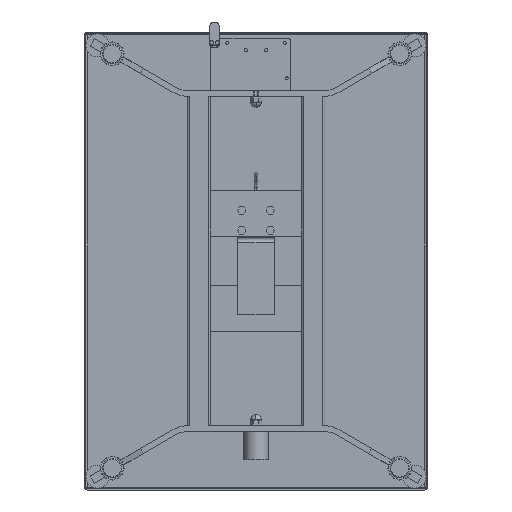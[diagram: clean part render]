
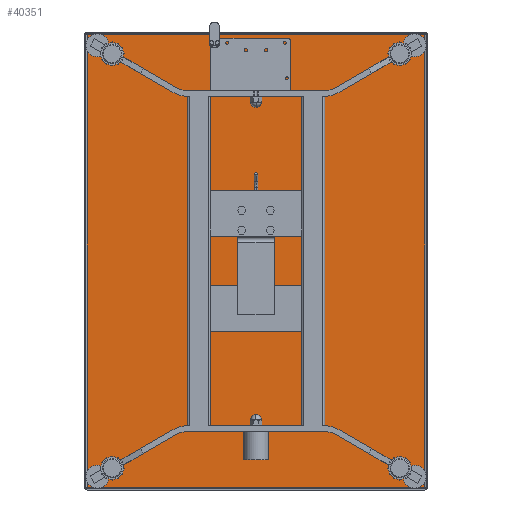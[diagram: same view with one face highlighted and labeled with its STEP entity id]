
A CAD part, front view. The second image highlights one B-rep face of the part: STEP entity #40351.
In plain terms, the highlighted planar face has unit normal (0, -1, 0).
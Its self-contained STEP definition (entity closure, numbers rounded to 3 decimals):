
#38860=DIRECTION('',(0.,0.,-1.));
#38861=VECTOR('',#38860,790.);
#38862=CARTESIAN_POINT('',(395.,95.9,395.));
#38863=LINE('',#38862,#38861);
#38964=CARTESIAN_POINT('',(395.,95.9,395.));
#38972=DIRECTION('',(1.,0.,0.));
#38973=VECTOR('',#38972,590.);
#38974=CARTESIAN_POINT('',(-195.,95.9,395.));
#38975=LINE('',#38974,#38973);
#39021=CARTESIAN_POINT('',(-195.,95.9,-395.));
#39029=DIRECTION('',(-1.,0.,0.));
#39030=VECTOR('',#39029,590.);
#39031=CARTESIAN_POINT('',(395.,95.9,-395.));
#39032=LINE('',#39031,#39030);
#39233=DIRECTION('',(0.,0.,1.));
#39234=VECTOR('',#39233,790.);
#39235=CARTESIAN_POINT('',(-195.,95.9,-395.));
#39236=LINE('',#39235,#39234);
#39245=CARTESIAN_POINT('',(377.008,95.9,-376.705));
#39246=DIRECTION('',(0.,1.,0.));
#39247=DIRECTION('',(0.,0.,-1.));
#39248=AXIS2_PLACEMENT_3D('',#39245,#39246,#39247);
#39250=CARTESIAN_POINT('',(377.008,95.9,-376.705));
#39251=DIRECTION('',(0.,1.,0.));
#39252=DIRECTION('',(0.,0.,1.));
#39253=AXIS2_PLACEMENT_3D('',#39250,#39251,#39252);
#39367=CARTESIAN_POINT('',(-177.008,95.9,-376.705));
#39368=DIRECTION('',(0.,1.,0.));
#39369=DIRECTION('',(0.,0.,-1.));
#39370=AXIS2_PLACEMENT_3D('',#39367,#39368,#39369);
#39372=CARTESIAN_POINT('',(-177.008,95.9,-376.705));
#39373=DIRECTION('',(0.,1.,0.));
#39374=DIRECTION('',(0.,0.,1.));
#39375=AXIS2_PLACEMENT_3D('',#39372,#39373,#39374);
#39489=CARTESIAN_POINT('',(377.008,95.9,376.705));
#39490=DIRECTION('',(0.,1.,0.));
#39491=DIRECTION('',(0.,0.,-1.));
#39492=AXIS2_PLACEMENT_3D('',#39489,#39490,#39491);
#39494=CARTESIAN_POINT('',(377.008,95.9,376.705));
#39495=DIRECTION('',(0.,1.,0.));
#39496=DIRECTION('',(0.,0.,1.));
#39497=AXIS2_PLACEMENT_3D('',#39494,#39495,#39496);
#39629=CARTESIAN_POINT('',(395.,95.9,-395.));
#39630=VERTEX_POINT('',#39629);
#39631=VERTEX_POINT('',#39021);
#39646=CARTESIAN_POINT('',(-195.,95.9,395.));
#39647=VERTEX_POINT('',#39646);
#39648=VERTEX_POINT('',#38964);
#39766=CARTESIAN_POINT('',(377.008,95.9,-392.405));
#39767=CARTESIAN_POINT('',(377.008,95.9,-361.005));
#39768=VERTEX_POINT('',#39766);
#39769=VERTEX_POINT('',#39767);
#39770=CARTESIAN_POINT('',(-177.008,95.9,-392.405));
#39771=CARTESIAN_POINT('',(-177.008,95.9,-361.005));
#39772=VERTEX_POINT('',#39770);
#39773=VERTEX_POINT('',#39771);
#39774=CARTESIAN_POINT('',(377.008,95.9,361.005));
#39775=CARTESIAN_POINT('',(377.008,95.9,392.405));
#39776=VERTEX_POINT('',#39774);
#39777=VERTEX_POINT('',#39775);
#40320=CARTESIAN_POINT('',(100.,95.9,0.));
#40321=DIRECTION('',(0.,1.,0.));
#40322=DIRECTION('',(0.,0.,1.));
#40323=AXIS2_PLACEMENT_3D('',#40320,#40321,#40322);
#40324=PLANE('',#40323);
#40325=ORIENTED_EDGE('',*,*,#40171,.T.);
#40326=ORIENTED_EDGE('',*,*,#39930,.T.);
#40328=ORIENTED_EDGE('',*,*,#40327,.T.);
#40330=ORIENTED_EDGE('',*,*,#40329,.T.);
#40331=EDGE_LOOP('',(#40325,#40326,#40328,#40330));
#40332=FACE_OUTER_BOUND('',#40331,.F.);
#40334=ORIENTED_EDGE('',*,*,#40333,.F.);
#40336=ORIENTED_EDGE('',*,*,#40335,.F.);
#40337=EDGE_LOOP('',(#40334,#40336));
#40338=FACE_BOUND('',#40337,.F.);
#40340=ORIENTED_EDGE('',*,*,#40339,.F.);
#40342=ORIENTED_EDGE('',*,*,#40341,.F.);
#40343=EDGE_LOOP('',(#40340,#40342));
#40344=FACE_BOUND('',#40343,.F.);
#40346=ORIENTED_EDGE('',*,*,#40345,.F.);
#40348=ORIENTED_EDGE('',*,*,#40347,.F.);
#40349=EDGE_LOOP('',(#40346,#40348));
#40350=FACE_BOUND('',#40349,.F.);
#40351=ADVANCED_FACE('',(#40332,#40338,#40344,#40350),#40324,.F.);
#39249=CIRCLE('',#39248,15.7);
#39254=CIRCLE('',#39253,15.7);
#39371=CIRCLE('',#39370,15.7);
#39376=CIRCLE('',#39375,15.7);
#39493=CIRCLE('',#39492,15.7);
#39498=CIRCLE('',#39497,15.7);
#39930=EDGE_CURVE('',#39648,#39630,#38863,.T.);
#40171=EDGE_CURVE('',#39647,#39648,#38975,.T.);
#40327=EDGE_CURVE('',#39630,#39631,#39032,.T.);
#40329=EDGE_CURVE('',#39631,#39647,#39236,.T.);
#40333=EDGE_CURVE('',#39768,#39769,#39249,.T.);
#40335=EDGE_CURVE('',#39769,#39768,#39254,.T.);
#40339=EDGE_CURVE('',#39772,#39773,#39371,.T.);
#40341=EDGE_CURVE('',#39773,#39772,#39376,.T.);
#40345=EDGE_CURVE('',#39776,#39777,#39493,.T.);
#40347=EDGE_CURVE('',#39777,#39776,#39498,.T.);
